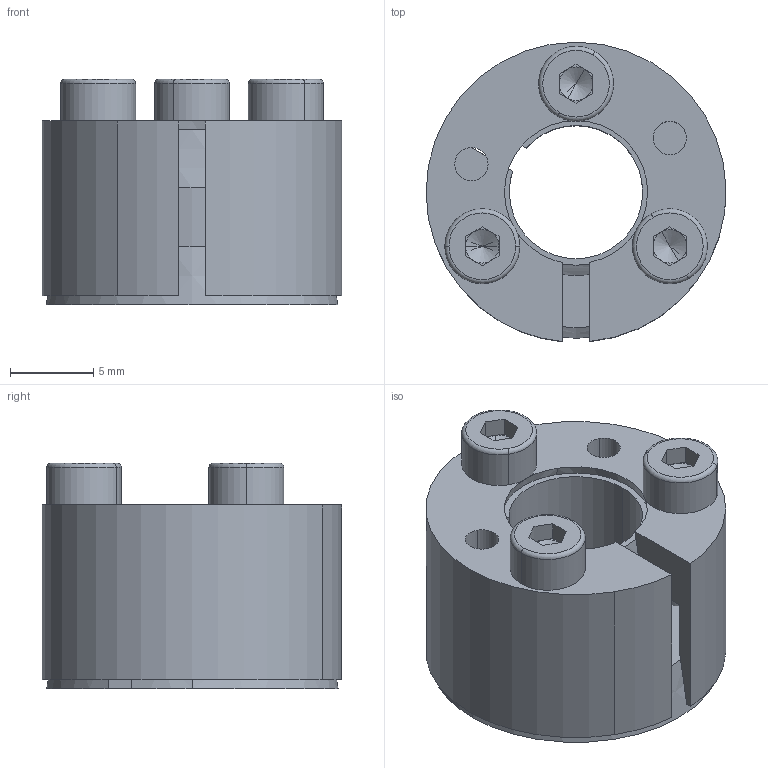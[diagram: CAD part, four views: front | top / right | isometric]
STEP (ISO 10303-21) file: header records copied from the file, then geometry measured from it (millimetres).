
FILE_DESCRIPTION (( 'STEP AP214' ), '1' );
FILE_NAME ('CONEX-K-8x18.step', '2013-04-06T13:20:15', ( 'Pc' ), ( '' ), 'SwSTEP 2.0', 'SolidWorks 2013', '' );
FILE_SCHEMA (( 'AUTOMOTIVE_DESIGN' ));
Length unit declared in the file: millimetre
Products named in the file (1): CONEX-K-8x18
Bounding box: 17.99 x 17.96 x 13.52 mm (x, y, z)
Volume: 1787.8 mm3; surface area: 2978.7 mm2
Topology: 5 solids, 5 shells, 131 faces, 308 edges, 187 vertices
Faces by surface type: plane 55, cylinder 40, cone 24, torus 12
Entity records: 5269 total; most frequent: DIRECTION 704, CARTESIAN_POINT 645, ORIENTED_EDGE 604, EDGE_CURVE 302, AXIS2_PLACEMENT_3D 278, VERTEX_POINT 187, EDGE_LOOP 153, LINE 148
